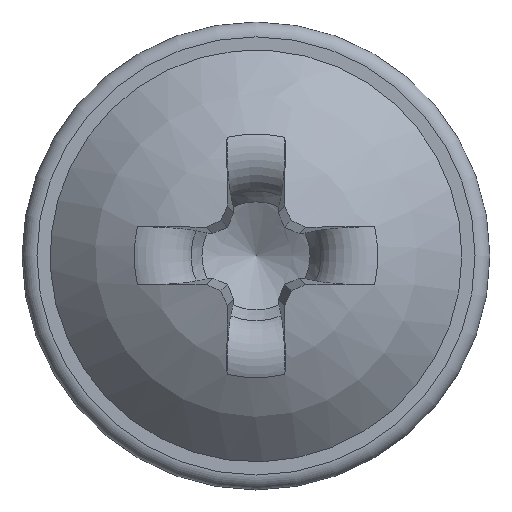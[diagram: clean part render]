
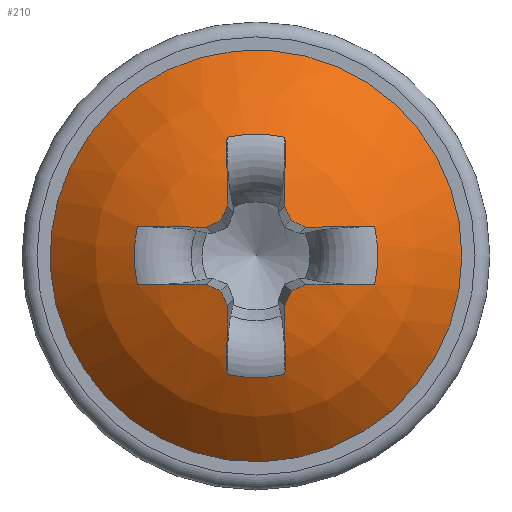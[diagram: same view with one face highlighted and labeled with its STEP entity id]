
A CAD part, top view. The second image highlights one B-rep face of the part: STEP entity #210.
In plain terms, the highlighted spherical face has radius 3.212 mm.
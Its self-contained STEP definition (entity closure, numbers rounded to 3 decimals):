
#142=SPHERICAL_SURFACE('',#1091,3.212);
#210=ADVANCED_FACE('',(#363,#364),#142,.T.);
#363=FACE_BOUND('',#385,.T.);
#364=FACE_BOUND('',#386,.T.);
#385=EDGE_LOOP('',(#479));
#386=EDGE_LOOP('',(#480,#481,#482,#483,#484,#485,#486,#487,#488,#489,#490,
#491,#492,#493,#494,#495,#496,#497,#498,#499));
#479=ORIENTED_EDGE('',*,*,#891,.T.);
#480=ORIENTED_EDGE('',*,*,#892,.F.);
#481=ORIENTED_EDGE('',*,*,#893,.T.);
#482=ORIENTED_EDGE('',*,*,#894,.F.);
#483=ORIENTED_EDGE('',*,*,#895,.F.);
#484=ORIENTED_EDGE('',*,*,#896,.F.);
#485=ORIENTED_EDGE('',*,*,#897,.F.);
#486=ORIENTED_EDGE('',*,*,#898,.T.);
#487=ORIENTED_EDGE('',*,*,#899,.F.);
#488=ORIENTED_EDGE('',*,*,#900,.F.);
#489=ORIENTED_EDGE('',*,*,#901,.F.);
#490=ORIENTED_EDGE('',*,*,#902,.F.);
#491=ORIENTED_EDGE('',*,*,#903,.T.);
#492=ORIENTED_EDGE('',*,*,#904,.F.);
#493=ORIENTED_EDGE('',*,*,#905,.F.);
#494=ORIENTED_EDGE('',*,*,#906,.F.);
#495=ORIENTED_EDGE('',*,*,#907,.F.);
#496=ORIENTED_EDGE('',*,*,#908,.T.);
#497=ORIENTED_EDGE('',*,*,#909,.F.);
#498=ORIENTED_EDGE('',*,*,#910,.F.);
#499=ORIENTED_EDGE('',*,*,#911,.F.);
#785=VERTEX_POINT('',#1961);
#786=VERTEX_POINT('',#1963);
#787=VERTEX_POINT('',#1964);
#788=VERTEX_POINT('',#1966);
#789=VERTEX_POINT('',#1968);
#790=VERTEX_POINT('',#1970);
#791=VERTEX_POINT('',#1972);
#792=VERTEX_POINT('',#1974);
#793=VERTEX_POINT('',#1976);
#794=VERTEX_POINT('',#1978);
#795=VERTEX_POINT('',#1980);
#796=VERTEX_POINT('',#1982);
#797=VERTEX_POINT('',#1984);
#798=VERTEX_POINT('',#1986);
#799=VERTEX_POINT('',#1988);
#800=VERTEX_POINT('',#1990);
#801=VERTEX_POINT('',#1992);
#802=VERTEX_POINT('',#1994);
#803=VERTEX_POINT('',#1996);
#804=VERTEX_POINT('',#1998);
#805=VERTEX_POINT('',#2000);
#891=EDGE_CURVE('',#785,#785,#1026,.T.);
#892=EDGE_CURVE('',#786,#787,#1027,.T.);
#893=EDGE_CURVE('',#786,#788,#1028,.T.);
#894=EDGE_CURVE('',#789,#788,#1029,.T.);
#895=EDGE_CURVE('',#790,#789,#1030,.T.);
#896=EDGE_CURVE('',#791,#790,#1031,.T.);
#897=EDGE_CURVE('',#792,#791,#1032,.T.);
#898=EDGE_CURVE('',#792,#793,#1033,.T.);
#899=EDGE_CURVE('',#794,#793,#1034,.T.);
#900=EDGE_CURVE('',#795,#794,#1035,.T.);
#901=EDGE_CURVE('',#796,#795,#1036,.T.);
#902=EDGE_CURVE('',#797,#796,#1037,.T.);
#903=EDGE_CURVE('',#797,#798,#1038,.T.);
#904=EDGE_CURVE('',#799,#798,#1039,.T.);
#905=EDGE_CURVE('',#800,#799,#1040,.T.);
#906=EDGE_CURVE('',#801,#800,#1041,.T.);
#907=EDGE_CURVE('',#802,#801,#1042,.T.);
#908=EDGE_CURVE('',#802,#803,#1043,.T.);
#909=EDGE_CURVE('',#804,#803,#1044,.T.);
#910=EDGE_CURVE('',#805,#804,#1045,.T.);
#911=EDGE_CURVE('',#787,#805,#1046,.T.);
#1026=CIRCLE('',#1070,2.42);
#1027=CIRCLE('',#1071,3.212);
#1028=CIRCLE('',#1072,1.434);
#1029=CIRCLE('',#1073,3.212);
#1030=CIRCLE('',#1074,3.208);
#1031=CIRCLE('',#1075,3.208);
#1032=CIRCLE('',#1076,3.212);
#1033=CIRCLE('',#1077,1.434);
#1034=CIRCLE('',#1078,3.212);
#1035=CIRCLE('',#1079,3.208);
#1036=CIRCLE('',#1080,3.208);
#1037=CIRCLE('',#1081,3.212);
#1038=CIRCLE('',#1082,1.434);
#1039=CIRCLE('',#1083,3.212);
#1040=CIRCLE('',#1084,3.208);
#1041=CIRCLE('',#1085,3.208);
#1042=CIRCLE('',#1086,3.212);
#1043=CIRCLE('',#1087,1.434);
#1044=CIRCLE('',#1088,3.212);
#1045=CIRCLE('',#1089,3.208);
#1046=CIRCLE('',#1090,3.208);
#1070=AXIS2_PLACEMENT_3D('',#1960,#1158,#1159);
#1071=AXIS2_PLACEMENT_3D('',#1962,#1160,#1161);
#1072=AXIS2_PLACEMENT_3D('',#1965,#1162,#1163);
#1073=AXIS2_PLACEMENT_3D('',#1967,#1164,#1165);
#1074=AXIS2_PLACEMENT_3D('',#1969,#1166,#1167);
#1075=AXIS2_PLACEMENT_3D('',#1971,#1168,#1169);
#1076=AXIS2_PLACEMENT_3D('',#1973,#1170,#1171);
#1077=AXIS2_PLACEMENT_3D('',#1975,#1172,#1173);
#1078=AXIS2_PLACEMENT_3D('',#1977,#1174,#1175);
#1079=AXIS2_PLACEMENT_3D('',#1979,#1176,#1177);
#1080=AXIS2_PLACEMENT_3D('',#1981,#1178,#1179);
#1081=AXIS2_PLACEMENT_3D('',#1983,#1180,#1181);
#1082=AXIS2_PLACEMENT_3D('',#1985,#1182,#1183);
#1083=AXIS2_PLACEMENT_3D('',#1987,#1184,#1185);
#1084=AXIS2_PLACEMENT_3D('',#1989,#1186,#1187);
#1085=AXIS2_PLACEMENT_3D('',#1991,#1188,#1189);
#1086=AXIS2_PLACEMENT_3D('',#1993,#1190,#1191);
#1087=AXIS2_PLACEMENT_3D('',#1995,#1192,#1193);
#1088=AXIS2_PLACEMENT_3D('',#1997,#1194,#1195);
#1089=AXIS2_PLACEMENT_3D('',#1999,#1196,#1197);
#1090=AXIS2_PLACEMENT_3D('',#2001,#1198,#1199);
#1091=AXIS2_PLACEMENT_3D('',#2002,#1200,#1201);
#1158=DIRECTION('',(0.,0.,1.));
#1159=DIRECTION('',(1.,0.,0.));
#1160=DIRECTION('',(-0.996,-0.035,0.087));
#1161=DIRECTION('',(0.087,0.,0.996));
#1162=DIRECTION('',(0.,0.,-1.));
#1163=DIRECTION('',(-1.,0.,0.));
#1164=DIRECTION('',(0.996,-0.035,0.087));
#1165=DIRECTION('',(0.087,0.,-0.996));
#1166=DIRECTION('',(0.907,0.404,0.122));
#1167=DIRECTION('',(-0.407,0.914,0.));
#1168=DIRECTION('',(0.404,0.907,0.122));
#1169=DIRECTION('',(-0.914,0.407,0.));
#1170=DIRECTION('',(-0.035,0.996,0.087));
#1171=DIRECTION('',(0.,-0.087,0.996));
#1172=DIRECTION('',(0.,0.,-1.));
#1173=DIRECTION('',(-1.,0.,0.));
#1174=DIRECTION('',(-0.035,-0.996,0.087));
#1175=DIRECTION('',(0.,-0.087,-0.996));
#1176=DIRECTION('',(0.404,-0.907,0.122));
#1177=DIRECTION('',(0.914,0.407,0.));
#1178=DIRECTION('',(0.907,-0.404,0.122));
#1179=DIRECTION('',(0.407,0.914,0.));
#1180=DIRECTION('',(0.996,0.035,0.087));
#1181=DIRECTION('',(0.087,0.,-0.996));
#1182=DIRECTION('',(0.,0.,-1.));
#1183=DIRECTION('',(-1.,0.,0.));
#1184=DIRECTION('',(-0.996,0.035,0.087));
#1185=DIRECTION('',(0.087,0.,0.996));
#1186=DIRECTION('',(-0.907,-0.404,0.122));
#1187=DIRECTION('',(0.407,-0.914,0.));
#1188=DIRECTION('',(-0.404,-0.907,0.122));
#1189=DIRECTION('',(0.914,-0.407,0.));
#1190=DIRECTION('',(0.035,-0.996,0.087));
#1191=DIRECTION('',(0.,-0.087,-0.996));
#1192=DIRECTION('',(0.,0.,-1.));
#1193=DIRECTION('',(-1.,0.,0.));
#1194=DIRECTION('',(0.035,0.996,0.087));
#1195=DIRECTION('',(0.,-0.087,0.996));
#1196=DIRECTION('',(-0.404,0.907,0.122));
#1197=DIRECTION('',(-0.914,-0.407,0.));
#1198=DIRECTION('',(-0.907,0.404,0.122));
#1199=DIRECTION('',(-0.407,-0.914,0.));
#1200=DIRECTION('',(0.,0.,1.));
#1201=DIRECTION('',(0.,1.,0.));
#1960=CARTESIAN_POINT('',(0.,0.,0.7));
#1961=CARTESIAN_POINT('',(2.42,0.,0.7));
#1962=CARTESIAN_POINT('',(0.04,0.001,-1.416));
#1963=CARTESIAN_POINT('',(0.341,-1.393,1.462));
#1964=CARTESIAN_POINT('',(0.336,-0.585,1.728));
#1965=CARTESIAN_POINT('',(0.,0.,1.462));
#1966=CARTESIAN_POINT('',(-0.341,-1.393,1.462));
#1967=CARTESIAN_POINT('',(-0.04,0.001,-1.416));
#1968=CARTESIAN_POINT('',(-0.336,-0.585,1.728));
#1969=CARTESIAN_POINT('',(-0.143,-0.064,-1.431));
#1970=CARTESIAN_POINT('',(-0.414,-0.414,1.746));
#1971=CARTESIAN_POINT('',(-0.064,-0.143,-1.431));
#1972=CARTESIAN_POINT('',(-0.585,-0.336,1.728));
#1973=CARTESIAN_POINT('',(0.001,-0.04,-1.416));
#1974=CARTESIAN_POINT('',(-1.393,-0.341,1.462));
#1975=CARTESIAN_POINT('',(0.,0.,1.462));
#1976=CARTESIAN_POINT('',(-1.393,0.341,1.462));
#1977=CARTESIAN_POINT('',(0.001,0.04,-1.416));
#1978=CARTESIAN_POINT('',(-0.585,0.336,1.728));
#1979=CARTESIAN_POINT('',(-0.064,0.143,-1.431));
#1980=CARTESIAN_POINT('',(-0.414,0.414,1.746));
#1981=CARTESIAN_POINT('',(-0.143,0.064,-1.431));
#1982=CARTESIAN_POINT('',(-0.336,0.585,1.728));
#1983=CARTESIAN_POINT('',(-0.04,-0.001,-1.416));
#1984=CARTESIAN_POINT('',(-0.341,1.393,1.462));
#1985=CARTESIAN_POINT('',(0.,0.,1.462));
#1986=CARTESIAN_POINT('',(0.341,1.393,1.462));
#1987=CARTESIAN_POINT('',(0.04,-0.001,-1.416));
#1988=CARTESIAN_POINT('',(0.336,0.585,1.728));
#1989=CARTESIAN_POINT('',(0.143,0.064,-1.431));
#1990=CARTESIAN_POINT('',(0.414,0.414,1.746));
#1991=CARTESIAN_POINT('',(0.064,0.143,-1.431));
#1992=CARTESIAN_POINT('',(0.585,0.336,1.728));
#1993=CARTESIAN_POINT('',(-0.001,0.04,-1.416));
#1994=CARTESIAN_POINT('',(1.393,0.341,1.462));
#1995=CARTESIAN_POINT('',(0.,0.,1.462));
#1996=CARTESIAN_POINT('',(1.393,-0.341,1.462));
#1997=CARTESIAN_POINT('',(-0.001,-0.04,-1.416));
#1998=CARTESIAN_POINT('',(0.585,-0.336,1.728));
#1999=CARTESIAN_POINT('',(0.064,-0.143,-1.431));
#2000=CARTESIAN_POINT('',(0.414,-0.414,1.746));
#2001=CARTESIAN_POINT('',(0.143,-0.064,-1.431));
#2002=CARTESIAN_POINT('',(0.,0.,-1.412));
